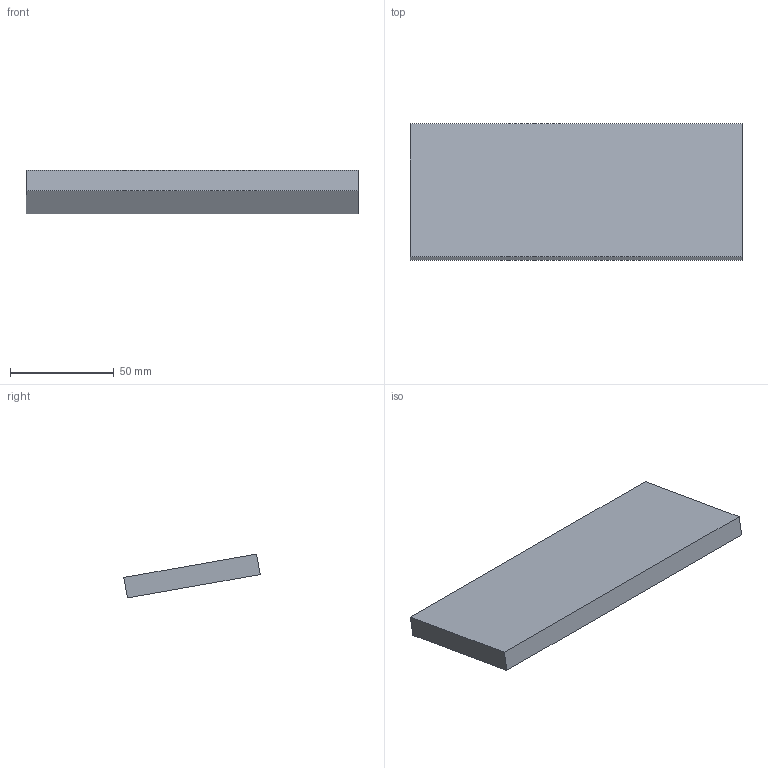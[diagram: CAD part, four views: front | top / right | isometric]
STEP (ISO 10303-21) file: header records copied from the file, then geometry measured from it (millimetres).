
FILE_DESCRIPTION(('golf model'),'2;1');
FILE_NAME('golf','',(''),(''),'golf_step_io','golf','');
FILE_SCHEMA(('AUTOMOTIVE_DESIGN { 1 0 10303 214 1 1 1 1 }'));
Length unit declared in the file: millimetre
Products named in the file (2): ASSEMBLY; gantry_frame.foot_bottom_gusset_1
Assembly tree (1 placements, depth 2):
  ASSEMBLY
    gantry_frame.foot_bottom_gusset_1
Bounding box: 160 x 65.75 x 21.14 mm (x, y, z)
Volume: 104000 mm3; surface area: 25300 mm2
Topology: 1 solids, 1 shells, 6 faces, 12 edges, 8 vertices
Faces by surface type: plane 6
Entity records: 190 total; most frequent: CARTESIAN_POINT 28, DIRECTION 28, ORIENTED_EDGE 24, VECTOR 12, LINE 12, EDGE_CURVE 12, AXIS2_PLACEMENT_3D 8, VERTEX_POINT 8
